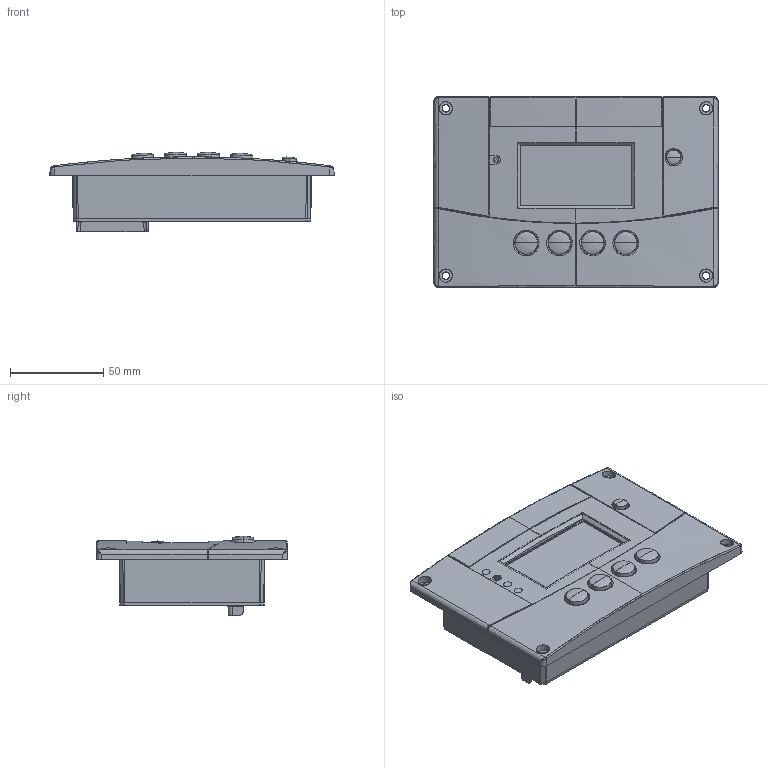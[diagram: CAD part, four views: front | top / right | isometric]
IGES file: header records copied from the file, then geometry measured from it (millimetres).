
Start section: SolidWorks IGES file using analytic representation for surfaces
Global section: file name: N:\DavidM\AGS_Shell.IGS; native system: SolidWorks 2013; preprocessor: SolidWorks 2013; author: sesa125144; date: 140410.143227; units: millimetre
Bounding box: 152.4 x 102.42 x 42.54 mm (x, y, z)
Surface area: 132299.7 mm2 (no closed solid volume)
Topology: 0 solids, 0 shells, 1899 faces, 21495 edges, 21439 vertices
Faces by surface type: bspline 1112, revolution 787
